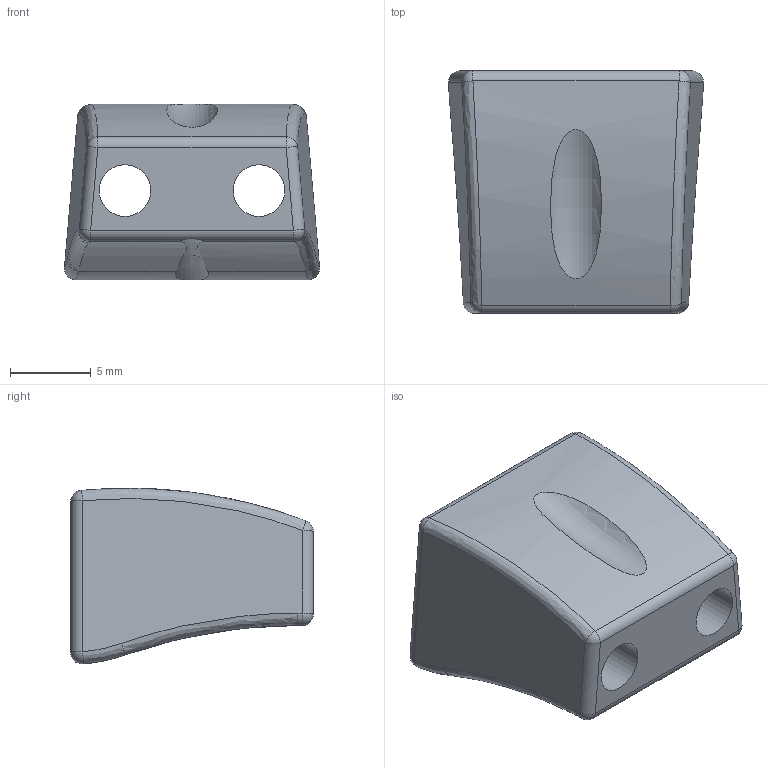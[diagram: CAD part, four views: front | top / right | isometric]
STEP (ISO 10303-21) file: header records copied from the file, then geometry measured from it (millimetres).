
FILE_DESCRIPTION(/* description */ (''),/* implementation_level */ '2;1');
FILE_NAME(/* name */ 'stopper.stp',/* time_stamp */ '2024-12-18T19:13:56+03:00',/* author */ ('87'),/* organization */ (''),/* preprocessor_version */ 'ST-DEVELOPER v19.2',/* originating_system */ 'Autodesk Inventor 2024',/* authorisation */ '');
FILE_SCHEMA (('AUTOMOTIVE_DESIGN { 1 0 10303 214 3 1 1 }'));
Length unit declared in the file: millimetre
Products named in the file (1): stopper
Bounding box: 15.79 x 15 x 10.87 mm (x, y, z)
Volume: 1625 mm3; surface area: 1174.6 mm2
Topology: 1 solids, 1 shells, 39 faces, 81 edges, 45 vertices
Faces by surface type: cylinder 17, sphere 8, plane 6, bspline 6, torus 2
Full cylindrical faces by diameter (mm): 3.2 x2
Entity records: 1281 total; most frequent: CARTESIAN_POINT 409, DIRECTION 184, ORIENTED_EDGE 162, EDGE_CURVE 81, AXIS2_PLACEMENT_3D 78, VERTEX_POINT 45, EDGE_LOOP 44, FACE_OUTER_BOUND 39
